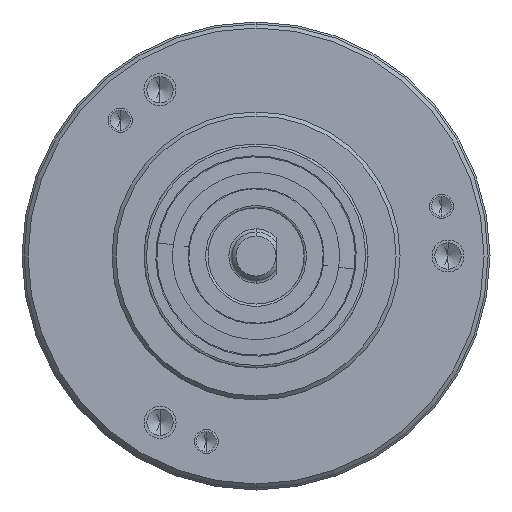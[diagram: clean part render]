
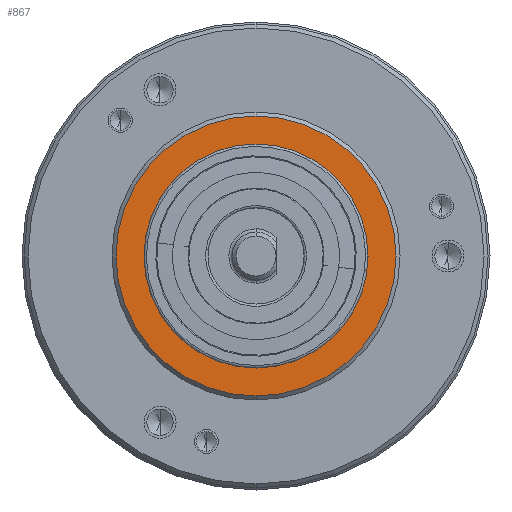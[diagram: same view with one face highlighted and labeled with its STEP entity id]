
A CAD part, front view. The second image highlights one B-rep face of the part: STEP entity #867.
In plain terms, the highlighted planar face has unit normal (0, -1, 0).
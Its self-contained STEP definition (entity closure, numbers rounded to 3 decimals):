
#608 = VERTEX_POINT ( 'NONE', #3674 ) ;
#651 = EDGE_CURVE ( 'NONE', #608, #652, #3828, .T. ) ;
#652 = VERTEX_POINT ( 'NONE', #3804 ) ;
#867 = ADVANCED_FACE ( 'NONE', ( #4455, #4454 ), #4529, .T. ) ;
#868 = EDGE_LOOP ( 'NONE', ( #869, #871 ) ) ;
#869 = ORIENTED_EDGE ( 'NONE', *, *, #870, .T. ) ;
#870 = EDGE_CURVE ( 'NONE', #1480, #1479, #4523, .T. ) ;
#871 = ORIENTED_EDGE ( 'NONE', *, *, #1478, .T. ) ;
#872 = EDGE_LOOP ( 'NONE', ( #873, #875 ) ) ;
#873 = ORIENTED_EDGE ( 'NONE', *, *, #874, .F. ) ;
#874 = EDGE_CURVE ( 'NONE', #652, #608, #4427, .T. ) ;
#875 = ORIENTED_EDGE ( 'NONE', *, *, #651, .F. ) ;
#1478 = EDGE_CURVE ( 'NONE', #1479, #1480, #6615, .T. ) ;
#1479 = VERTEX_POINT ( 'NONE', #6745 ) ;
#1480 = VERTEX_POINT ( 'NONE', #6744 ) ;
#3674 = CARTESIAN_POINT ( 'NONE',  ( 0., 0., 14. ) ) ;
#3804 = CARTESIAN_POINT ( 'NONE',  ( 0., 0., -14. ) ) ;
#3805 = DIRECTION ( 'NONE',  ( 0., 0., -1. ) ) ;
#3806 = DIRECTION ( 'NONE',  ( 0., -1., 0. ) ) ;
#3807 = CARTESIAN_POINT ( 'NONE',  ( 0., 0., 0. ) ) ;
#3808 = AXIS2_PLACEMENT_3D ( 'NONE', #3807, #3806, #3805 ) ;
#3828 = CIRCLE ( 'NONE', #3808, 14. ) ;
#4424 = DIRECTION ( 'NONE',  ( 0., 0., -1. ) ) ;
#4425 = DIRECTION ( 'NONE',  ( 0., -1., 0. ) ) ;
#4426 = AXIS2_PLACEMENT_3D ( 'NONE', #4524, #4425, #4424 ) ;
#4427 = CIRCLE ( 'NONE', #4426, 14. ) ;
#4454 = FACE_BOUND ( 'NONE', #872, .T. ) ;
#4455 = FACE_OUTER_BOUND ( 'NONE', #868, .T. ) ;
#4519 = DIRECTION ( 'NONE',  ( 0., 0., -1. ) ) ;
#4520 = DIRECTION ( 'NONE',  ( 0., -1., 0. ) ) ;
#4521 = CARTESIAN_POINT ( 'NONE',  ( 0., 0., 0. ) ) ;
#4522 = AXIS2_PLACEMENT_3D ( 'NONE', #4521, #4520, #4519 ) ;
#4523 = CIRCLE ( 'NONE', #4522, 17.5 ) ;
#4524 = CARTESIAN_POINT ( 'NONE',  ( 0., 0., 0. ) ) ;
#4525 = DIRECTION ( 'NONE',  ( 0., 0., -1. ) ) ;
#4526 = DIRECTION ( 'NONE',  ( 0., -1., 0. ) ) ;
#4527 = CARTESIAN_POINT ( 'NONE',  ( 0., 0., 0. ) ) ;
#4528 = AXIS2_PLACEMENT_3D ( 'NONE', #4527, #4526, #4525 ) ;
#4529 = PLANE ( 'NONE',  #4528 ) ;
#6615 = CIRCLE ( 'NONE', #6749, 17.5 ) ;
#6744 = CARTESIAN_POINT ( 'NONE',  ( 0., 0., 17.5 ) ) ;
#6745 = CARTESIAN_POINT ( 'NONE',  ( 0., 0., -17.5 ) ) ;
#6746 = DIRECTION ( 'NONE',  ( 0., 0., -1. ) ) ;
#6747 = DIRECTION ( 'NONE',  ( 0., -1., 0. ) ) ;
#6748 = CARTESIAN_POINT ( 'NONE',  ( 0., 0., 0. ) ) ;
#6749 = AXIS2_PLACEMENT_3D ( 'NONE', #6748, #6747, #6746 ) ;
